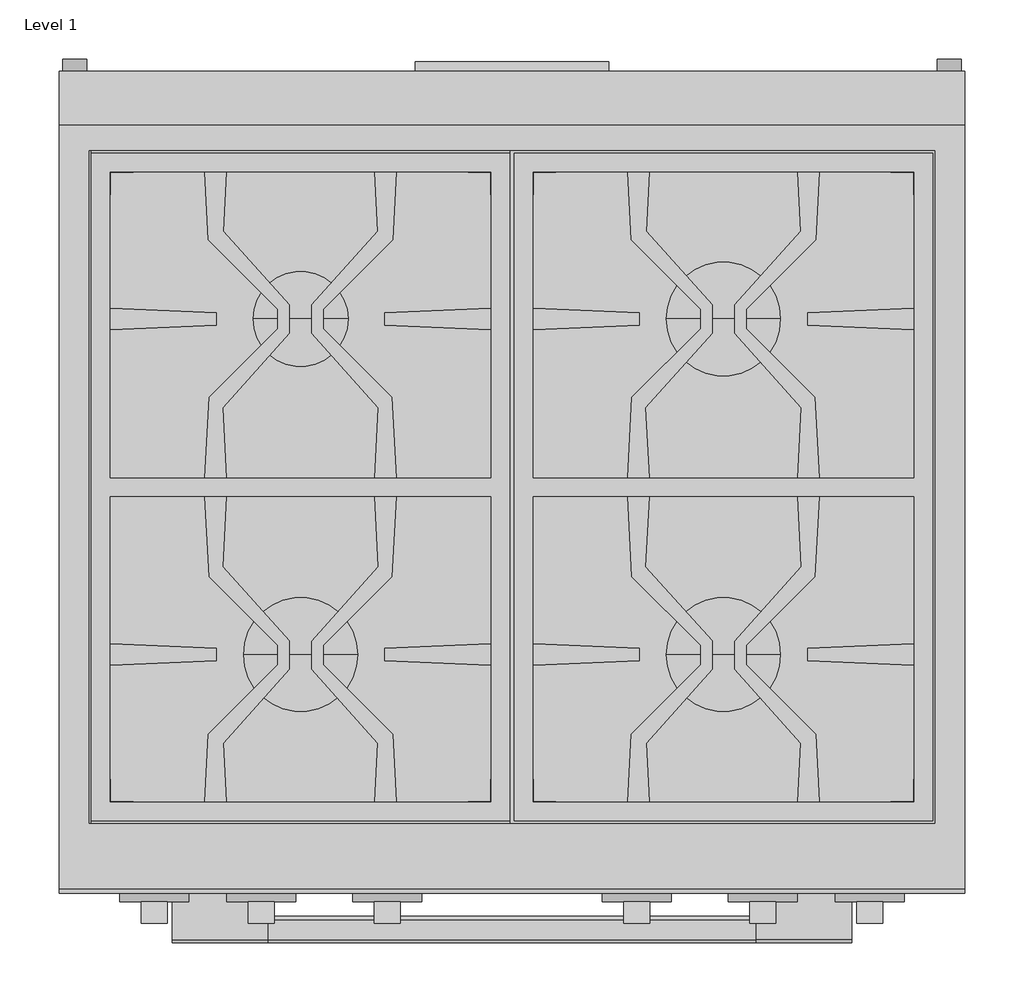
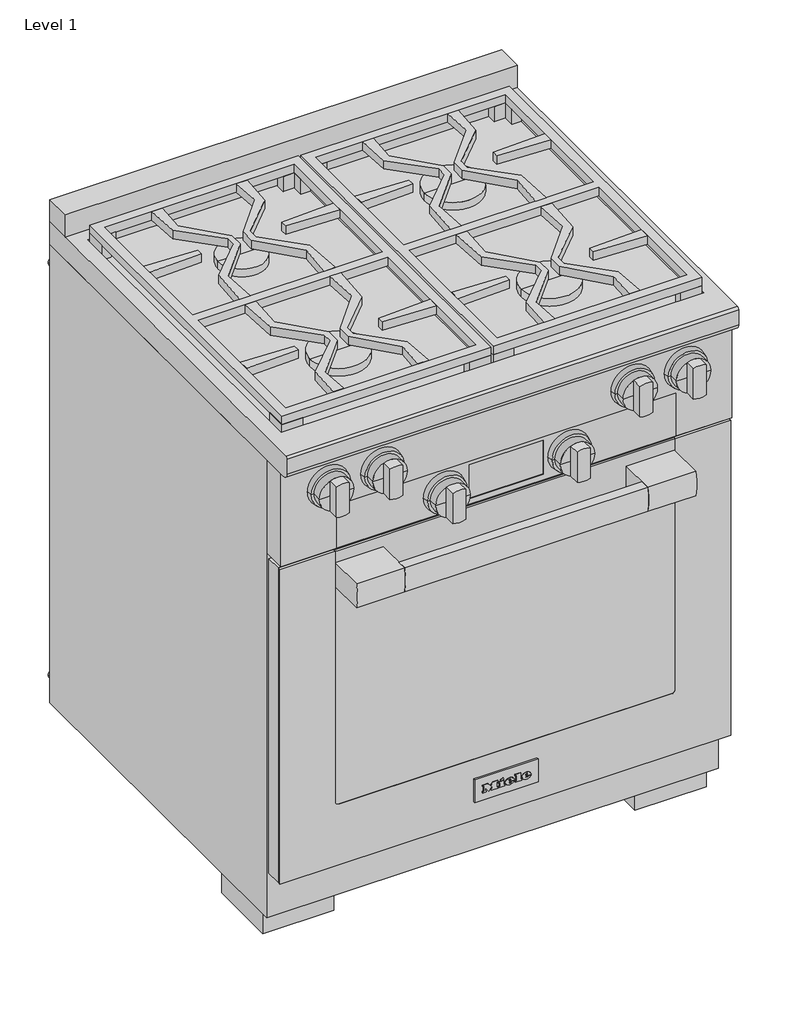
# One storey: 1 proxy.
"""IFC4 building model written with IfcOpenShell, lengths in millimetres."""

from ifc_helpers import new_model, si_unit, origin, place, context, project, spatial, transform, mapped, element, save
from components import specialty_equipment_1acf6e52, specialty_equipment_9f55172a

model = new_model("IFC4")

# Units and contexts
model_context = context("Model", 3, world=origin())
ifc_project = project(units=[si_unit("LENGTHUNIT", "METRE", prefix="MILLI")], contexts=[model_context])

# Site, building, storey
site = spatial("IfcSite", under=ifc_project)
building = spatial("IfcBuilding", under=site)
storey = spatial("IfcBuildingStorey", under=building, Name="Level 1", Elevation=0.0)

# Proxy
placement = place(None, origin())
specialty_equipment_shape = specialty_equipment_1acf6e52(model_context)
specialty_equipment_2_shape = specialty_equipment_9f55172a(model_context)
element("IfcBuildingElementProxy", 1, Name="11791390_USA_HR1124-3LP_EDST-CLS : 25112482_USA_11791390_HR1124-3LP_EDST-CLS", ObjectType="11791390_USA_HR1124-3LP_EDST-CLS : 25112482_USA_11791390_HR1124-3LP_EDST-CLS", at=placement, inside=storey, context=model_context, shape_type="MappedRepresentation", body=[
    mapped(specialty_equipment_shape, transform((0.0, 0.0, 0.0), x_axis=(1.0, 0.0, 0.0), y_axis=(0.0, 1.0, 0.0), z_axis=(0.0, 0.0, 1.0))),
    mapped(specialty_equipment_2_shape, transform((0.0, 0.0, 0.0), x_axis=(1.0, 0.0, 0.0), y_axis=(0.0, 1.0, 0.0), z_axis=(0.0, 0.0, 1.0))),
])

save(model, "model.ifc")
